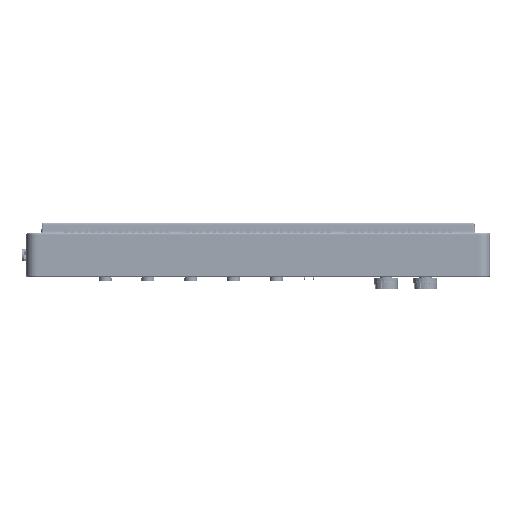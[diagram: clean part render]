
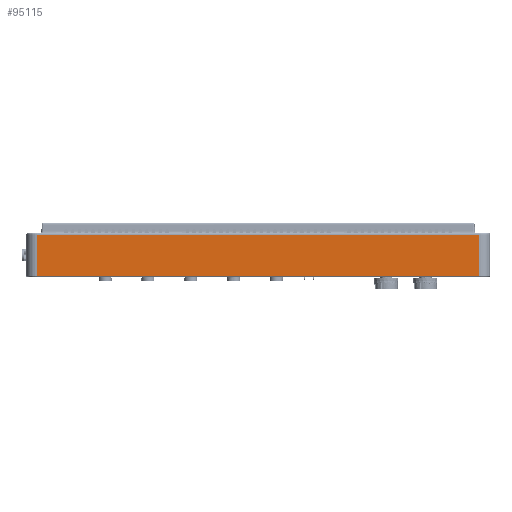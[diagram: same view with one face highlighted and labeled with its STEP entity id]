
A CAD part, front view. The second image highlights one B-rep face of the part: STEP entity #95115.
In plain terms, the highlighted planar face has unit normal (0, -1, 0).
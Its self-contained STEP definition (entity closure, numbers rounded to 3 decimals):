
#807=DIRECTION('',(1.,0.,0.));
#808=VECTOR('',#807,328.);
#809=CARTESIAN_POINT('',(-164.,-202.865,-2.15));
#810=LINE('',#809,#808);
#3812=DIRECTION('',(0.,0.,1.));
#3813=VECTOR('',#3812,30.4);
#3814=CARTESIAN_POINT('',(164.,-202.865,-2.15));
#3815=LINE('',#3814,#3813);
#3824=DIRECTION('',(0.,0.,-1.));
#3825=VECTOR('',#3824,30.4);
#3826=CARTESIAN_POINT('',(-164.,-202.865,28.25));
#3827=LINE('',#3826,#3825);
#3847=DIRECTION('',(-1.,0.,0.));
#3848=VECTOR('',#3847,328.);
#3849=CARTESIAN_POINT('',(164.,-202.865,28.25));
#3850=LINE('',#3849,#3848);
#75471=CARTESIAN_POINT('',(164.,-202.865,-2.15));
#75472=VERTEX_POINT('',#75471);
#75473=CARTESIAN_POINT('',(-164.,-202.865,-2.15));
#75474=VERTEX_POINT('',#75473);
#76977=CARTESIAN_POINT('',(164.,-202.865,28.25));
#76978=VERTEX_POINT('',#76977);
#76979=CARTESIAN_POINT('',(-164.,-202.865,28.25));
#76980=VERTEX_POINT('',#76979);
#95102=CARTESIAN_POINT('',(164.,-202.865,-3.15));
#95103=DIRECTION('',(0.,-1.,0.));
#95104=DIRECTION('',(-1.,0.,0.));
#95105=AXIS2_PLACEMENT_3D('',#95102,#95103,#95104);
#95106=PLANE('',#95105);
#95107=ORIENTED_EDGE('',*,*,#92213,.F.);
#95109=ORIENTED_EDGE('',*,*,#95108,.F.);
#95111=ORIENTED_EDGE('',*,*,#95110,.F.);
#95112=ORIENTED_EDGE('',*,*,#95087,.F.);
#95113=EDGE_LOOP('',(#95107,#95109,#95111,#95112));
#95114=FACE_OUTER_BOUND('',#95113,.F.);
#95115=ADVANCED_FACE('',(#95114),#95106,.T.);
#92213=EDGE_CURVE('',#75474,#75472,#810,.T.);
#95087=EDGE_CURVE('',#75472,#76978,#3815,.T.);
#95108=EDGE_CURVE('',#76980,#75474,#3827,.T.);
#95110=EDGE_CURVE('',#76978,#76980,#3850,.T.);
